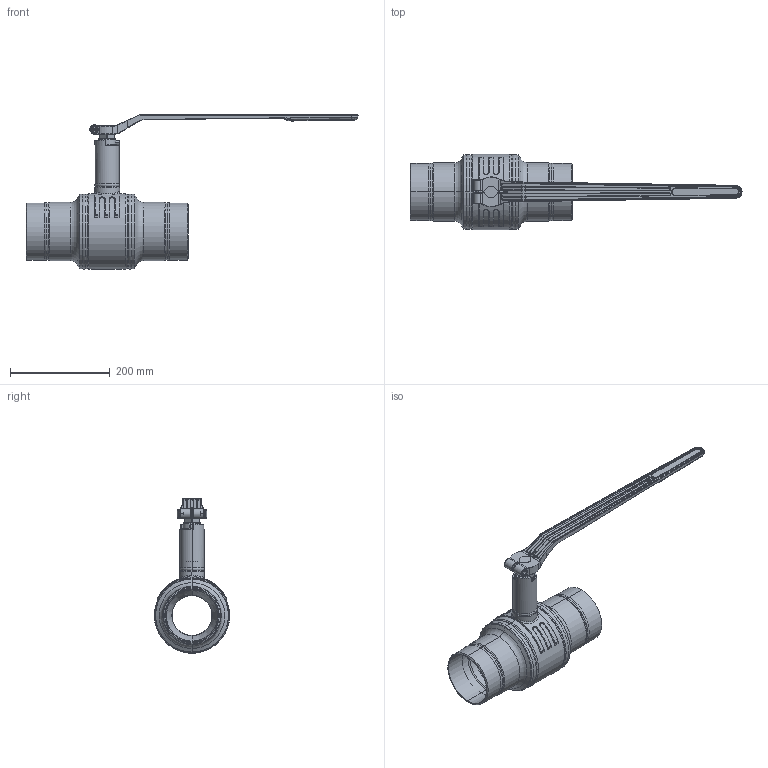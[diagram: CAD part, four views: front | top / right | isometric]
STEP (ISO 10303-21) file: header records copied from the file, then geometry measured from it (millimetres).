
FILE_DESCRIPTION((''),'2;1');
FILE_NAME('KHMO-S-R-H-100R080P04_SW0001','2022-10-18T15:46:15',('jeitlers'),('KLINGER'),'CREO PARAMETRIC BY PTC INC, 2020184','CREO PARAMETRIC BY PTC INC, 2020184','');
FILE_SCHEMA(('AUTOMOTIVE_DESIGN { 1 0 10303 214 1 1 1 1 }'));
Length unit declared in the file: millimetre
Products named in the file (1): KHMO-S-R-H-100R080P04_SW0001
Bounding box: 665.3 x 151 x 309.5 mm (x, y, z)
Volume: 1805783.6 mm3; surface area: 508785.4 mm2
Topology: 1 solids, 1 shells, 933 faces, 2229 edges, 1296 vertices
Faces by surface type: cylinder 310, torus 188, plane 167, bspline 149, cone 100, sphere 10, extrusion 8, revolution 1
Entity records: 53142 total; most frequent: CARTESIAN_POINT 31209, DIRECTION 4455, ORIENTED_EDGE 4424, EDGE_CURVE 2212, AXIS2_PLACEMENT_3D 1853, VERTEX_POINT 1296, CIRCLE 1060, EDGE_LOOP 972
